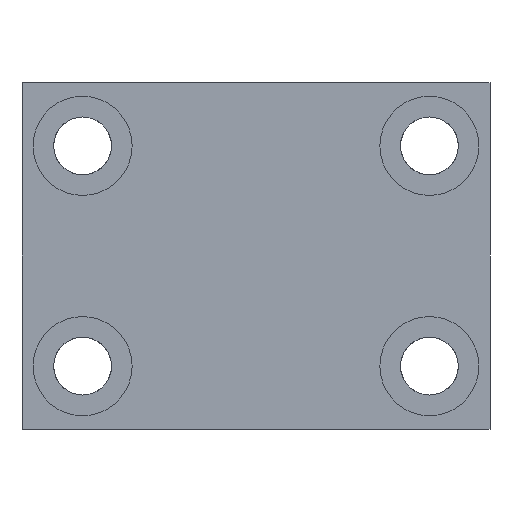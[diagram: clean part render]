
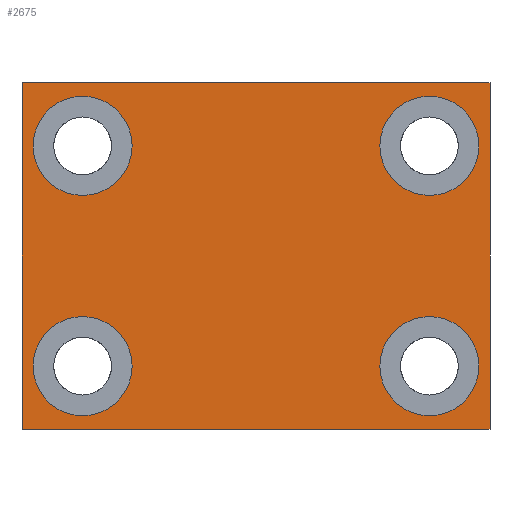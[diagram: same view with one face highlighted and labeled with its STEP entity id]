
A CAD part, front view. The second image highlights one B-rep face of the part: STEP entity #2675.
In plain terms, the highlighted planar face has unit normal (0, -1, 0).
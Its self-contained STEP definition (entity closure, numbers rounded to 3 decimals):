
#28 = EDGE_CURVE ( 'NONE', #3785, #3880, #3277, .T. ) ;
#69 = CARTESIAN_POINT ( 'NONE',  ( 31.5, 0., -20. ) ) ;
#112 = CARTESIAN_POINT ( 'NONE',  ( -31.5, 0., 11. ) ) ;
#114 = EDGE_LOOP ( 'NONE', ( #3715, #1107 ) ) ;
#141 = ORIENTED_EDGE ( 'NONE', *, *, #3488, .F. ) ;
#214 = CARTESIAN_POINT ( 'NONE',  ( 42.5, 0., -31.5 ) ) ;
#232 = DIRECTION ( 'NONE',  ( 0., 0., -1. ) ) ;
#256 = EDGE_CURVE ( 'NONE', #3471, #2691, #3331, .T. ) ;
#266 = EDGE_CURVE ( 'NONE', #3302, #529, #2451, .T. ) ;
#276 = CARTESIAN_POINT ( 'NONE',  ( -31.5, 0., -11. ) ) ;
#315 = CIRCLE ( 'NONE', #3102, 9. ) ;
#348 = EDGE_CURVE ( 'NONE', #3880, #3785, #2786, .T. ) ;
#375 = DIRECTION ( 'NONE',  ( 0., 0., -1. ) ) ;
#378 = AXIS2_PLACEMENT_3D ( 'NONE', #382, #380, #375 ) ;
#380 = DIRECTION ( 'NONE',  ( 0., -1., 0. ) ) ;
#382 = CARTESIAN_POINT ( 'NONE',  ( 31.5, 0., -20. ) ) ;
#407 = DIRECTION ( 'NONE',  ( 0., 0., -1. ) ) ;
#484 = FACE_BOUND ( 'NONE', #570, .T. ) ;
#529 = VERTEX_POINT ( 'NONE', #2680 ) ;
#570 = EDGE_LOOP ( 'NONE', ( #1489, #2253 ) ) ;
#594 = CARTESIAN_POINT ( 'NONE',  ( -42.5, 0., 31.5 ) ) ;
#596 = VECTOR ( 'NONE', #232, 1000. ) ;
#663 = CARTESIAN_POINT ( 'NONE',  ( 42.5, 0., 31.5 ) ) ;
#687 = EDGE_LOOP ( 'NONE', ( #3068, #141 ) ) ;
#713 = EDGE_CURVE ( 'NONE', #2758, #3756, #2725, .T. ) ;
#762 = CARTESIAN_POINT ( 'NONE',  ( 31.5, 0., 11. ) ) ;
#808 = EDGE_CURVE ( 'NONE', #1306, #4172, #3408, .T. ) ;
#844 = CARTESIAN_POINT ( 'NONE',  ( 31.5, 0., 20. ) ) ;
#846 = DIRECTION ( 'NONE',  ( 0., 0., 1. ) ) ;
#856 = DIRECTION ( 'NONE',  ( 0., 0., -1. ) ) ;
#858 = DIRECTION ( 'NONE',  ( 0., 1., 0. ) ) ;
#863 = DIRECTION ( 'NONE',  ( 0., 0., -1. ) ) ;
#865 = EDGE_CURVE ( 'NONE', #2032, #3302, #2340, .T. ) ;
#871 = DIRECTION ( 'NONE',  ( 0., -1., 0. ) ) ;
#889 = CARTESIAN_POINT ( 'NONE',  ( -31.5, 0., 20. ) ) ;
#901 = PLANE ( 'NONE',  #4064 ) ;
#944 = EDGE_CURVE ( 'NONE', #529, #3221, #2116, .T. ) ;
#979 = CARTESIAN_POINT ( 'NONE',  ( 0., 0., 0. ) ) ;
#984 = ORIENTED_EDGE ( 'NONE', *, *, #28, .F. ) ;
#1014 = LINE ( 'NONE', #1644, #1771 ) ;
#1085 = DIRECTION ( 'NONE',  ( 0., -1., 0. ) ) ;
#1107 = ORIENTED_EDGE ( 'NONE', *, *, #256, .F. ) ;
#1164 = CARTESIAN_POINT ( 'NONE',  ( 31.5, 0., -29. ) ) ;
#1238 = EDGE_CURVE ( 'NONE', #3221, #2032, #1014, .T. ) ;
#1266 = VECTOR ( 'NONE', #4110, 1000. ) ;
#1297 = AXIS2_PLACEMENT_3D ( 'NONE', #2880, #2870, #2851 ) ;
#1306 = VERTEX_POINT ( 'NONE', #1164 ) ;
#1307 = CARTESIAN_POINT ( 'NONE',  ( 42.5, 0., -31.5 ) ) ;
#1326 = EDGE_CURVE ( 'NONE', #2691, #3471, #4077, .T. ) ;
#1368 = EDGE_LOOP ( 'NONE', ( #984, #2660 ) ) ;
#1383 = AXIS2_PLACEMENT_3D ( 'NONE', #4148, #4141, #4124 ) ;
#1489 = ORIENTED_EDGE ( 'NONE', *, *, #808, .F. ) ;
#1576 = DIRECTION ( 'NONE',  ( 1., 0., 0. ) ) ;
#1586 = VECTOR ( 'NONE', #2885, 1000. ) ;
#1644 = CARTESIAN_POINT ( 'NONE',  ( -42.5, 0., 31.5 ) ) ;
#1771 = VECTOR ( 'NONE', #1576, 1000. ) ;
#1867 = CARTESIAN_POINT ( 'NONE',  ( -31.5, 0., 29. ) ) ;
#2007 = FACE_OUTER_BOUND ( 'NONE', #3990, .T. ) ;
#2032 = VERTEX_POINT ( 'NONE', #663 ) ;
#2110 = FACE_BOUND ( 'NONE', #687, .T. ) ;
#2116 = LINE ( 'NONE', #4090, #1266 ) ;
#2207 = AXIS2_PLACEMENT_3D ( 'NONE', #889, #871, #863 ) ;
#2253 = ORIENTED_EDGE ( 'NONE', *, *, #4045, .F. ) ;
#2340 = LINE ( 'NONE', #214, #596 ) ;
#2382 = DIRECTION ( 'NONE',  ( 0., -1., 0. ) ) ;
#2387 = CARTESIAN_POINT ( 'NONE',  ( 31.5, 0., 29. ) ) ;
#2404 = DIRECTION ( 'NONE',  ( 0., 0., -1. ) ) ;
#2417 = DIRECTION ( 'NONE',  ( 0., -1., 0. ) ) ;
#2423 = CARTESIAN_POINT ( 'NONE',  ( -31.5, 0., -20. ) ) ;
#2451 = LINE ( 'NONE', #2914, #1586 ) ;
#2660 = ORIENTED_EDGE ( 'NONE', *, *, #348, .F. ) ;
#2675 = ADVANCED_FACE ( 'NONE', ( #3738, #484, #2871, #2110, #2007 ), #901, .F. ) ;
#2680 = CARTESIAN_POINT ( 'NONE',  ( -42.5, 0., -31.5 ) ) ;
#2691 = VERTEX_POINT ( 'NONE', #762 ) ;
#2713 = ORIENTED_EDGE ( 'NONE', *, *, #266, .F. ) ;
#2725 = CIRCLE ( 'NONE', #2207, 9. ) ;
#2758 = VERTEX_POINT ( 'NONE', #112 ) ;
#2786 = CIRCLE ( 'NONE', #3454, 9. ) ;
#2811 = ORIENTED_EDGE ( 'NONE', *, *, #865, .F. ) ;
#2851 = DIRECTION ( 'NONE',  ( 0., 0., -1. ) ) ;
#2870 = DIRECTION ( 'NONE',  ( 0., -1., 0. ) ) ;
#2871 = FACE_BOUND ( 'NONE', #114, .T. ) ;
#2880 = CARTESIAN_POINT ( 'NONE',  ( 31.5, 0., 20. ) ) ;
#2885 = DIRECTION ( 'NONE',  ( -1., 0., 0. ) ) ;
#2914 = CARTESIAN_POINT ( 'NONE',  ( -42.5, 0., -31.5 ) ) ;
#3031 = CARTESIAN_POINT ( 'NONE',  ( -31.5, 0., 20. ) ) ;
#3068 = ORIENTED_EDGE ( 'NONE', *, *, #713, .F. ) ;
#3102 = AXIS2_PLACEMENT_3D ( 'NONE', #3031, #1085, #3365 ) ;
#3199 = CARTESIAN_POINT ( 'NONE',  ( -31.5, 0., -29. ) ) ;
#3221 = VERTEX_POINT ( 'NONE', #594 ) ;
#3277 = CIRCLE ( 'NONE', #1383, 9. ) ;
#3302 = VERTEX_POINT ( 'NONE', #1307 ) ;
#3331 = CIRCLE ( 'NONE', #1297, 9. ) ;
#3365 = DIRECTION ( 'NONE',  ( 0., 0., -1. ) ) ;
#3408 = CIRCLE ( 'NONE', #378, 9. ) ;
#3454 = AXIS2_PLACEMENT_3D ( 'NONE', #2423, #2417, #2404 ) ;
#3471 = VERTEX_POINT ( 'NONE', #2387 ) ;
#3488 = EDGE_CURVE ( 'NONE', #3756, #2758, #315, .T. ) ;
#3492 = DIRECTION ( 'NONE',  ( 0., -1., 0. ) ) ;
#3496 = AXIS2_PLACEMENT_3D ( 'NONE', #844, #3492, #856 ) ;
#3582 = CIRCLE ( 'NONE', #3951, 9. ) ;
#3715 = ORIENTED_EDGE ( 'NONE', *, *, #1326, .F. ) ;
#3738 = FACE_BOUND ( 'NONE', #1368, .T. ) ;
#3756 = VERTEX_POINT ( 'NONE', #1867 ) ;
#3785 = VERTEX_POINT ( 'NONE', #3199 ) ;
#3826 = ORIENTED_EDGE ( 'NONE', *, *, #1238, .F. ) ;
#3842 = ORIENTED_EDGE ( 'NONE', *, *, #944, .F. ) ;
#3880 = VERTEX_POINT ( 'NONE', #276 ) ;
#3951 = AXIS2_PLACEMENT_3D ( 'NONE', #69, #2382, #407 ) ;
#3990 = EDGE_LOOP ( 'NONE', ( #2811, #3826, #3842, #2713 ) ) ;
#4045 = EDGE_CURVE ( 'NONE', #4172, #1306, #3582, .T. ) ;
#4064 = AXIS2_PLACEMENT_3D ( 'NONE', #979, #858, #846 ) ;
#4077 = CIRCLE ( 'NONE', #3496, 9. ) ;
#4090 = CARTESIAN_POINT ( 'NONE',  ( -42.5, 0., -31.5 ) ) ;
#4102 = CARTESIAN_POINT ( 'NONE',  ( 31.5, 0., -11. ) ) ;
#4110 = DIRECTION ( 'NONE',  ( 0., 0., 1. ) ) ;
#4124 = DIRECTION ( 'NONE',  ( 0., 0., -1. ) ) ;
#4141 = DIRECTION ( 'NONE',  ( 0., -1., 0. ) ) ;
#4148 = CARTESIAN_POINT ( 'NONE',  ( -31.5, 0., -20. ) ) ;
#4172 = VERTEX_POINT ( 'NONE', #4102 ) ;
